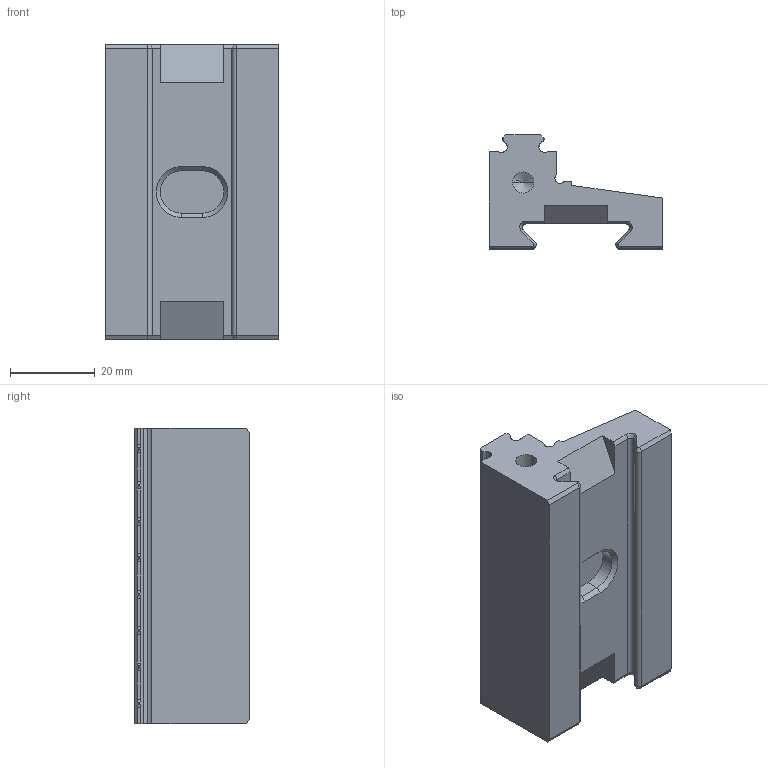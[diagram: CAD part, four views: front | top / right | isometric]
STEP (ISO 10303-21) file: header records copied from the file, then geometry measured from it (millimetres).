
FILE_DESCRIPTION (( 'STEP AP214' ), '1' );
FILE_NAME ('6921544010131.STEP', '2017-12-21T12:53:56', ( '' ), ( '' ), 'SwSTEP 2.0', 'SolidWorks 2016', '' );
FILE_SCHEMA (( 'AUTOMOTIVE_DESIGN' ));
Length unit declared in the file: millimetre
Products named in the file (1): 6921544010131
Bounding box: 41 x 27 x 70 mm (x, y, z)
Volume: 41204.5 mm3; surface area: 12672.2 mm2
Topology: 1 solids, 1 shells, 302 faces, 814 edges, 532 vertices
Faces by surface type: plane 169, bspline 64, cylinder 51, cone 18
Entity records: 13270 total; most frequent: CARTESIAN_POINT 6221, ORIENTED_EDGE 1620, DIRECTION 1150, EDGE_CURVE 810, VECTOR 564, LINE 564, VERTEX_POINT 532, EDGE_LOOP 324
